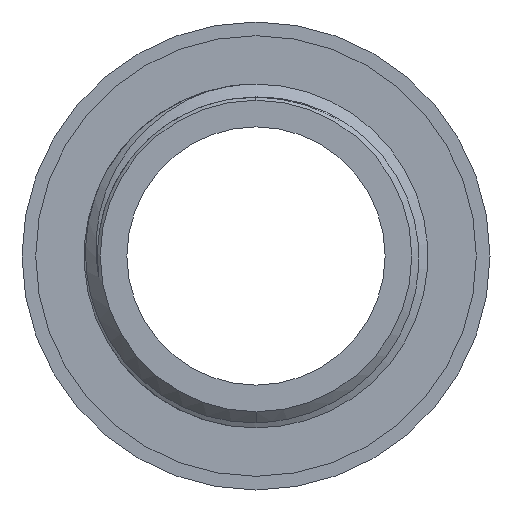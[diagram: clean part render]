
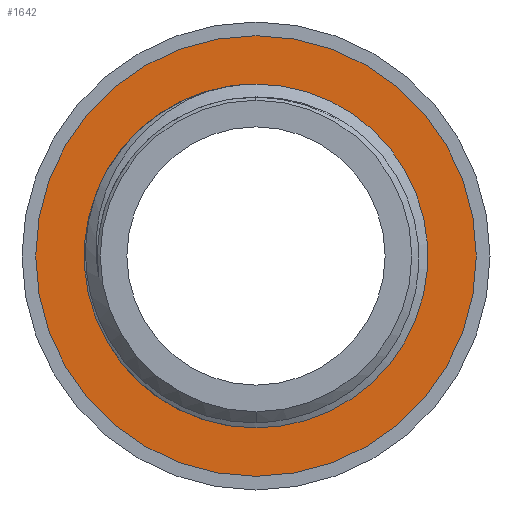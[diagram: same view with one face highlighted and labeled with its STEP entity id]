
A CAD part, left-side view. The second image highlights one B-rep face of the part: STEP entity #1642.
In plain terms, the highlighted planar face has unit normal (-1, 0, 0).
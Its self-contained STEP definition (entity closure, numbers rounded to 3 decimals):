
#192 = EDGE_LOOP ( 'NONE', ( #839, #2162 ) ) ;
#258 = CIRCLE ( 'NONE', #2662, 9.65 ) ;
#301 = ORIENTED_EDGE ( 'NONE', *, *, #2010, .T. ) ;
#350 = DIRECTION ( 'NONE',  ( -1., 0., 0. ) ) ;
#543 = CARTESIAN_POINT ( 'NONE',  ( -21.799, 0., 0. ) ) ;
#556 = DIRECTION ( 'NONE',  ( -1., 0., 0. ) ) ;
#565 = EDGE_CURVE ( 'NONE', #1023, #2129, #2393, .T. ) ;
#574 = DIRECTION ( 'NONE',  ( 0., 0., 1. ) ) ;
#615 = CARTESIAN_POINT ( 'NONE',  ( -21.799, 13.65, 0. ) ) ;
#662 = CARTESIAN_POINT ( 'NONE',  ( -21.799, 0., 0. ) ) ;
#680 = VERTEX_POINT ( 'NONE', #2356 ) ;
#681 = CARTESIAN_POINT ( 'NONE',  ( -21.799, 0., -9.65 ) ) ;
#796 = DIRECTION ( 'NONE',  ( 0., 0., 1. ) ) ;
#818 = AXIS2_PLACEMENT_3D ( 'NONE', #2665, #556, #574 ) ;
#839 = ORIENTED_EDGE ( 'NONE', *, *, #2551, .F. ) ;
#898 = DIRECTION ( 'NONE',  ( -1., 0., 0. ) ) ;
#1005 = EDGE_LOOP ( 'NONE', ( #2040, #301 ) ) ;
#1023 = VERTEX_POINT ( 'NONE', #1348 ) ;
#1067 = CARTESIAN_POINT ( 'NONE',  ( -21.799, 0., -13.65 ) ) ;
#1123 = CIRCLE ( 'NONE', #2308, 13.65 ) ;
#1141 = DIRECTION ( 'NONE',  ( 0., 0., 1. ) ) ;
#1348 = CARTESIAN_POINT ( 'NONE',  ( -21.799, 0., 13.65 ) ) ;
#1537 = FACE_BOUND ( 'NONE', #192, .T. ) ;
#1549 = DIRECTION ( 'NONE',  ( 1., 0., 0. ) ) ;
#1642 = ADVANCED_FACE ( 'NONE', ( #1537, #2478 ), #2014, .F. ) ;
#1690 = EDGE_CURVE ( 'NONE', #2440, #680, #258, .T. ) ;
#1742 = DIRECTION ( 'NONE',  ( 0., 0., 1. ) ) ;
#2010 = EDGE_CURVE ( 'NONE', #2129, #1023, #1123, .T. ) ;
#2014 = PLANE ( 'NONE',  #2025 ) ;
#2025 = AXIS2_PLACEMENT_3D ( 'NONE', #615, #1549, #2533 ) ;
#2040 = ORIENTED_EDGE ( 'NONE', *, *, #565, .T. ) ;
#2129 = VERTEX_POINT ( 'NONE', #1067 ) ;
#2145 = CIRCLE ( 'NONE', #818, 9.65 ) ;
#2162 = ORIENTED_EDGE ( 'NONE', *, *, #1690, .F. ) ;
#2210 = DIRECTION ( 'NONE',  ( -1., 0., 0. ) ) ;
#2300 = AXIS2_PLACEMENT_3D ( 'NONE', #2884, #350, #796 ) ;
#2308 = AXIS2_PLACEMENT_3D ( 'NONE', #543, #2210, #1742 ) ;
#2356 = CARTESIAN_POINT ( 'NONE',  ( -21.799, 0., 9.65 ) ) ;
#2393 = CIRCLE ( 'NONE', #2300, 13.65 ) ;
#2440 = VERTEX_POINT ( 'NONE', #681 ) ;
#2478 = FACE_OUTER_BOUND ( 'NONE', #1005, .T. ) ;
#2533 = DIRECTION ( 'NONE',  ( 0., 0., -1. ) ) ;
#2551 = EDGE_CURVE ( 'NONE', #680, #2440, #2145, .T. ) ;
#2662 = AXIS2_PLACEMENT_3D ( 'NONE', #662, #898, #1141 ) ;
#2665 = CARTESIAN_POINT ( 'NONE',  ( -21.799, 0., 0. ) ) ;
#2884 = CARTESIAN_POINT ( 'NONE',  ( -21.799, 0., 0. ) ) ;
